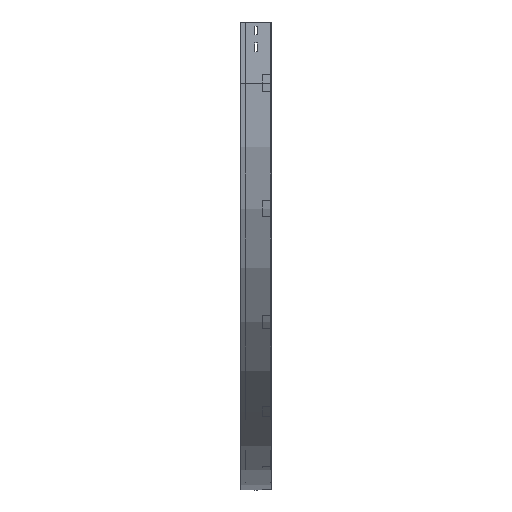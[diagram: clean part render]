
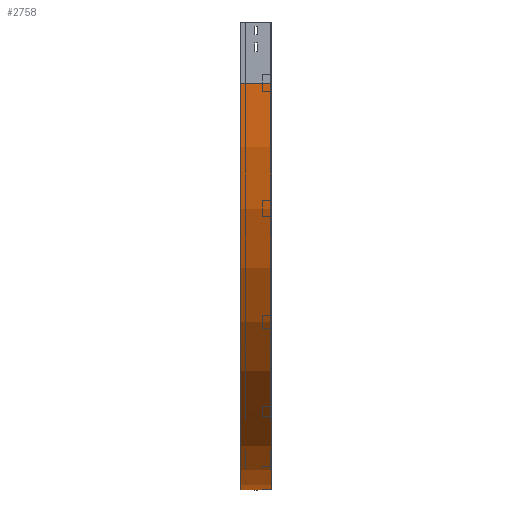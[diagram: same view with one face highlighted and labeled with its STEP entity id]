
A CAD part, left-side view. The second image highlights one B-rep face of the part: STEP entity #2758.
In plain terms, the highlighted cylindrical face has radius 1000 mm (diameter 2000 mm), a partial arc.
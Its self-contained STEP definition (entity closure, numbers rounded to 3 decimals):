
#39 = CARTESIAN_POINT ( 'NONE',  ( 0., 0., -150. ) ) ;
#64 = VECTOR ( 'NONE', #3164, 1000. ) ;
#82 = DIRECTION ( 'NONE',  ( 0., -1., 0. ) ) ;
#291 = CARTESIAN_POINT ( 'NONE',  ( 0., 75., -150. ) ) ;
#391 = VECTOR ( 'NONE', #82, 1000. ) ;
#687 = ORIENTED_EDGE ( 'NONE', *, *, #2736, .T. ) ;
#717 = EDGE_CURVE ( 'NONE', #3463, #2819, #3814, .T. ) ;
#874 = AXIS2_PLACEMENT_3D ( 'NONE', #2008, #996, #2763 ) ;
#987 = DIRECTION ( 'NONE',  ( 0., -1., 0. ) ) ;
#996 = DIRECTION ( 'NONE',  ( 0., -1., 0. ) ) ;
#1031 = ORIENTED_EDGE ( 'NONE', *, *, #1378, .F. ) ;
#1078 = AXIS2_PLACEMENT_3D ( 'NONE', #2101, #987, #1562 ) ;
#1239 = LINE ( 'NONE', #39, #391 ) ;
#1378 = EDGE_CURVE ( 'NONE', #1735, #2819, #2733, .T. ) ;
#1410 = VERTEX_POINT ( 'NONE', #291 ) ;
#1417 = CARTESIAN_POINT ( 'NONE',  ( 0., 0., -150. ) ) ;
#1420 = EDGE_CURVE ( 'NONE', #1410, #1735, #1239, .T. ) ;
#1562 = DIRECTION ( 'NONE',  ( -1., 0., 0. ) ) ;
#1610 = DIRECTION ( 'NONE',  ( 0., 0., -1. ) ) ;
#1615 = AXIS2_PLACEMENT_3D ( 'NONE', #2560, #3183, #1610 ) ;
#1735 = VERTEX_POINT ( 'NONE', #1417 ) ;
#2008 = CARTESIAN_POINT ( 'NONE',  ( 1000., 75., -150. ) ) ;
#2059 = EDGE_LOOP ( 'NONE', ( #1031, #2507, #687, #3717 ) ) ;
#2101 = CARTESIAN_POINT ( 'NONE',  ( 1000., 0., -150. ) ) ;
#2196 = FACE_OUTER_BOUND ( 'NONE', #2059, .T. ) ;
#2268 = CARTESIAN_POINT ( 'NONE',  ( 1000., 0., -1150. ) ) ;
#2507 = ORIENTED_EDGE ( 'NONE', *, *, #1420, .F. ) ;
#2560 = CARTESIAN_POINT ( 'NONE',  ( 1000., 0., -150. ) ) ;
#2623 = CARTESIAN_POINT ( 'NONE',  ( 1000., 0., -1150. ) ) ;
#2733 = CIRCLE ( 'NONE', #1078, 1000. ) ;
#2736 = EDGE_CURVE ( 'NONE', #1410, #3463, #2902, .T. ) ;
#2758 = ADVANCED_FACE ( 'NONE', ( #2196 ), #3411, .T. ) ;
#2763 = DIRECTION ( 'NONE',  ( -1., 0., 0. ) ) ;
#2819 = VERTEX_POINT ( 'NONE', #2268 ) ;
#2902 = CIRCLE ( 'NONE', #874, 1000. ) ;
#3164 = DIRECTION ( 'NONE',  ( 0., -1., 0. ) ) ;
#3183 = DIRECTION ( 'NONE',  ( 0., -1., 0. ) ) ;
#3411 = CYLINDRICAL_SURFACE ( 'NONE', #1615, 1000. ) ;
#3463 = VERTEX_POINT ( 'NONE', #3586 ) ;
#3586 = CARTESIAN_POINT ( 'NONE',  ( 1000., 75., -1150. ) ) ;
#3717 = ORIENTED_EDGE ( 'NONE', *, *, #717, .T. ) ;
#3814 = LINE ( 'NONE', #2623, #64 ) ;
